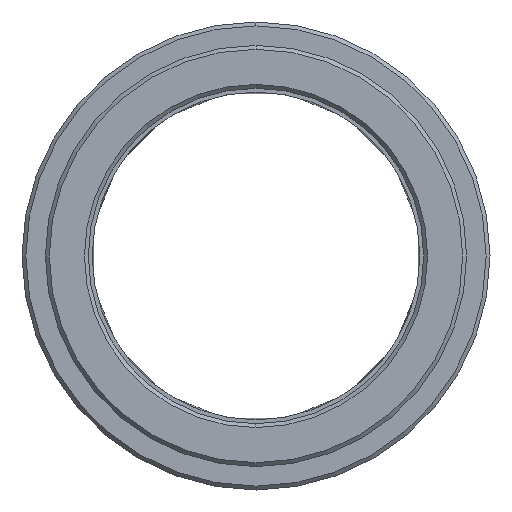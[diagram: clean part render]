
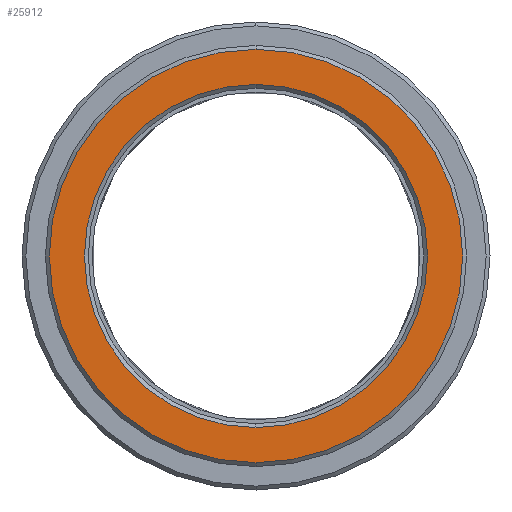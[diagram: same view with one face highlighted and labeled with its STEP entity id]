
A CAD part, left-side view. The second image highlights one B-rep face of the part: STEP entity #25912.
In plain terms, the highlighted planar face has unit normal (-1, 0, 0).
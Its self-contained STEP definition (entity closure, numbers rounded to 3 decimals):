
#10710=CARTESIAN_POINT('',(-10.,0.,
0.));
#10711=DIRECTION('',(1.,0.,0.));
#10712=DIRECTION('',(0.,0.,1.));
#10713=AXIS2_PLACEMENT_3D('',#10710,#10711,#10712);
#10715=CARTESIAN_POINT('',(-10.,0.,
0.));
#10716=DIRECTION('',(1.,0.,0.));
#10717=DIRECTION('',(0.,0.,-1.));
#10718=AXIS2_PLACEMENT_3D('',#10715,#10716,#10717);
#10720=CARTESIAN_POINT('',(-10.,0.,
0.));
#10721=DIRECTION('',(1.,0.,0.));
#10722=DIRECTION('',(0.,0.,1.));
#10723=AXIS2_PLACEMENT_3D('',#10720,#10721,#10722);
#10725=CARTESIAN_POINT('',(-10.,0.,
0.));
#10726=DIRECTION('',(1.,0.,0.));
#10727=DIRECTION('',(0.,0.,-1.));
#10728=AXIS2_PLACEMENT_3D('',#10725,#10726,#10727);
#22260=CARTESIAN_POINT('',(-10.,0.,22.));
#22261=CARTESIAN_POINT('',(-10.,0.,-22.));
#22262=VERTEX_POINT('',#22260);
#22263=VERTEX_POINT('',#22261);
#22268=CARTESIAN_POINT('',(-10.,0.,26.5));
#22269=CARTESIAN_POINT('',(-10.,0.,
-26.5));
#22270=VERTEX_POINT('',#22268);
#22271=VERTEX_POINT('',#22269);
#25896=CARTESIAN_POINT('',(-10.,0.,0.));
#25897=DIRECTION('',(1.,0.,0.));
#25898=DIRECTION('',(0.,0.,1.));
#25899=AXIS2_PLACEMENT_3D('',#25896,#25897,#25898);
#25900=PLANE('',#25899);
#25902=ORIENTED_EDGE('',*,*,#25901,.T.);
#25904=ORIENTED_EDGE('',*,*,#25903,.T.);
#25905=EDGE_LOOP('',(#25902,#25904));
#25906=FACE_OUTER_BOUND('',#25905,.F.);
#25907=ORIENTED_EDGE('',*,*,#25886,.F.);
#25909=ORIENTED_EDGE('',*,*,#25908,.F.);
#25910=EDGE_LOOP('',(#25907,#25909));
#25911=FACE_BOUND('',#25910,.F.);
#25912=ADVANCED_FACE('',(#25906,#25911),#25900,.F.);
#10714=CIRCLE('',#10713,26.5);
#10719=CIRCLE('',#10718,26.5);
#10724=CIRCLE('',#10723,22.);
#10729=CIRCLE('',#10728,22.);
#25886=EDGE_CURVE('',#22262,#22263,#10724,.T.);
#25901=EDGE_CURVE('',#22270,#22271,#10714,.T.);
#25903=EDGE_CURVE('',#22271,#22270,#10719,.T.);
#25908=EDGE_CURVE('',#22263,#22262,#10729,.T.);
